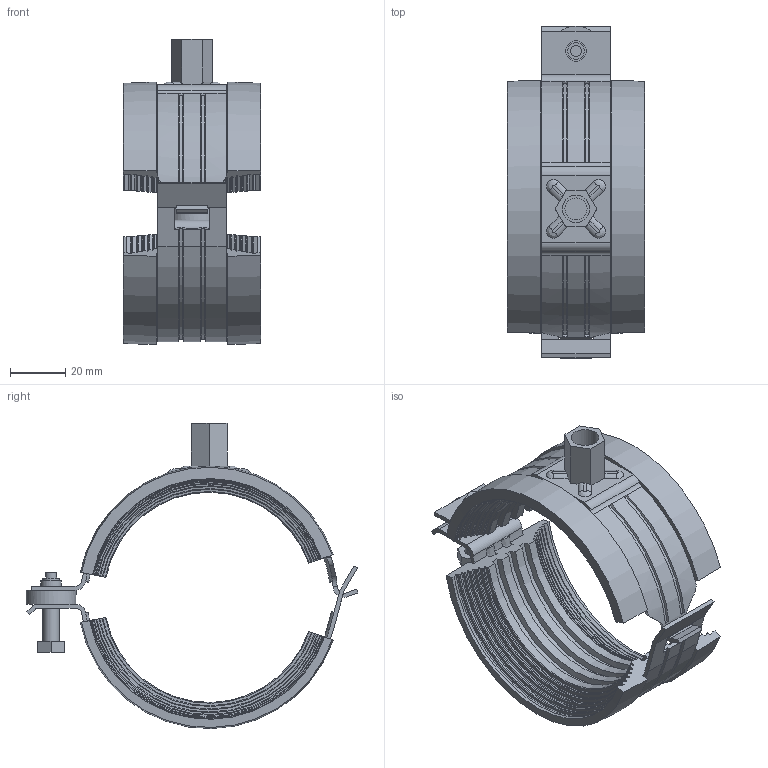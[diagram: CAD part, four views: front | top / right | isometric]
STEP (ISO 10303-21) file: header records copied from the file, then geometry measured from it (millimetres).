
FILE_DESCRIPTION(/* description */ (''),/* implementation_level */ '2;1');
FILE_NAME(/* name */ 'H:\Geberit-Teile\Export\Rohrschelle Si\stp\393399.stp',/* time_stamp */ '2017-02-14T11:11:34+01:00',/* author */ ('seihe2'),/* organization */ (''),/* preprocessor_version */ 'ST-DEVELOPER v15.2',/* originating_system */ 'Autodesk Inventor 2014',/* authorisation */ '');
FILE_SCHEMA (('AUTOMOTIVE_DESIGN { 1 0 10303 214 3 1 1 }'));
Length unit declared in the file: millimetre
Products named in the file (1): 393399
Bounding box: 50 x 120.51 x 110.79 mm (x, y, z)
Volume: 78072.6 mm3; surface area: 46236.7 mm2
Topology: 1 solids, 1 shells, 340 faces, 968 edges, 620 vertices
Faces by surface type: plane 96, cylinder 92, cone 84, torus 50, bspline 18
Full cylindrical faces by diameter (mm): 4 x1, 6 x2, 7.5 x1, 8 x1, 10 x1, 18.16 x1
Entity records: 11714 total; most frequent: CARTESIAN_POINT 2194, DIRECTION 2033, ORIENTED_EDGE 1928, EDGE_CURVE 961, AXIS2_PLACEMENT_3D 765, VERTEX_POINT 618, LINE 503, VECTOR 503
